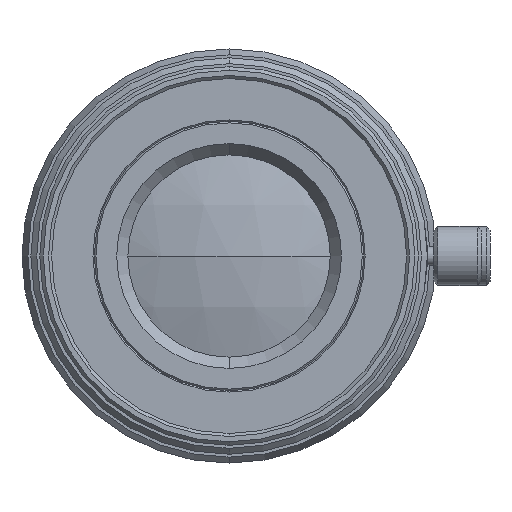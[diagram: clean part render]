
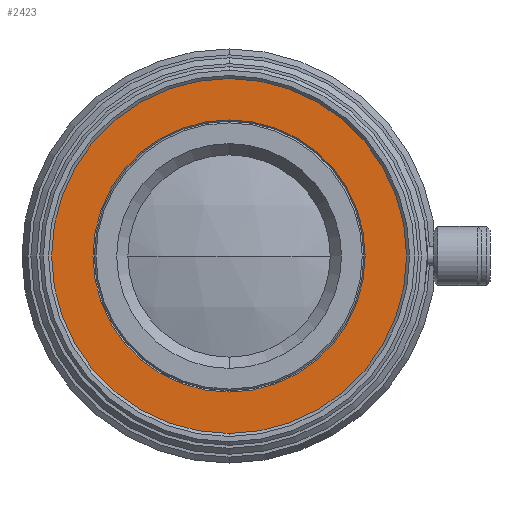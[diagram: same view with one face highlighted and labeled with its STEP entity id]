
A CAD part, left-side view. The second image highlights one B-rep face of the part: STEP entity #2423.
In plain terms, the highlighted planar face has unit normal (-1, 0, 0).
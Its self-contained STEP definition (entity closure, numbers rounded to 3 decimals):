
#54 = CARTESIAN_POINT ( 'NONE',  ( -57.526, 0., -11.5 ) ) ;
#136 = ORIENTED_EDGE ( 'NONE', *, *, #854, .F. ) ;
#185 = DIRECTION ( 'NONE',  ( -1., 0., 0. ) ) ;
#203 = DIRECTION ( 'NONE',  ( -1., 0., 0. ) ) ;
#326 = PLANE ( 'NONE',  #1830 ) ;
#352 = AXIS2_PLACEMENT_3D ( 'NONE', #1430, #804, #2001 ) ;
#362 = VERTEX_POINT ( 'NONE', #54 ) ;
#440 = VERTEX_POINT ( 'NONE', #1256 ) ;
#701 = EDGE_LOOP ( 'NONE', ( #1652, #1490 ) ) ;
#804 = DIRECTION ( 'NONE',  ( -1., 0., 0. ) ) ;
#817 = CARTESIAN_POINT ( 'NONE',  ( -57.526, 0., -15.25 ) ) ;
#854 = EDGE_CURVE ( 'NONE', #362, #2930, #2823, .T. ) ;
#973 = EDGE_LOOP ( 'NONE', ( #1206, #136 ) ) ;
#1098 = CARTESIAN_POINT ( 'NONE',  ( -57.526, 0., 0. ) ) ;
#1206 = ORIENTED_EDGE ( 'NONE', *, *, #1928, .F. ) ;
#1208 = DIRECTION ( 'NONE',  ( 0., 0., 1. ) ) ;
#1256 = CARTESIAN_POINT ( 'NONE',  ( -57.526, 0., 15.25 ) ) ;
#1287 = DIRECTION ( 'NONE',  ( 0., 0., 1. ) ) ;
#1430 = CARTESIAN_POINT ( 'NONE',  ( -57.526, 0., 0. ) ) ;
#1490 = ORIENTED_EDGE ( 'NONE', *, *, #2297, .T. ) ;
#1525 = DIRECTION ( 'NONE',  ( 1., 0., 0. ) ) ;
#1652 = ORIENTED_EDGE ( 'NONE', *, *, #2418, .T. ) ;
#1659 = AXIS2_PLACEMENT_3D ( 'NONE', #1883, #185, #1935 ) ;
#1791 = DIRECTION ( 'NONE',  ( -1., 0., 0. ) ) ;
#1830 = AXIS2_PLACEMENT_3D ( 'NONE', #3071, #1525, #2315 ) ;
#1883 = CARTESIAN_POINT ( 'NONE',  ( -57.526, 0., 0. ) ) ;
#1928 = EDGE_CURVE ( 'NONE', #2930, #362, #2094, .T. ) ;
#1935 = DIRECTION ( 'NONE',  ( 0., 0., 1. ) ) ;
#2001 = DIRECTION ( 'NONE',  ( 0., 0., 1. ) ) ;
#2094 = CIRCLE ( 'NONE', #352, 11.5 ) ;
#2297 = EDGE_CURVE ( 'NONE', #2495, #440, #2986, .T. ) ;
#2315 = DIRECTION ( 'NONE',  ( 0., 0., -1. ) ) ;
#2331 = FACE_OUTER_BOUND ( 'NONE', #701, .T. ) ;
#2371 = CIRCLE ( 'NONE', #2476, 15.25 ) ;
#2418 = EDGE_CURVE ( 'NONE', #440, #2495, #2371, .T. ) ;
#2423 = ADVANCED_FACE ( 'NONE', ( #2984, #2331 ), #326, .F. ) ;
#2476 = AXIS2_PLACEMENT_3D ( 'NONE', #1098, #1791, #1287 ) ;
#2484 = CARTESIAN_POINT ( 'NONE',  ( -57.526, 0., 0. ) ) ;
#2495 = VERTEX_POINT ( 'NONE', #817 ) ;
#2579 = AXIS2_PLACEMENT_3D ( 'NONE', #2484, #203, #1208 ) ;
#2638 = CARTESIAN_POINT ( 'NONE',  ( -57.526, 0., 11.5 ) ) ;
#2823 = CIRCLE ( 'NONE', #1659, 11.5 ) ;
#2930 = VERTEX_POINT ( 'NONE', #2638 ) ;
#2984 = FACE_BOUND ( 'NONE', #973, .T. ) ;
#2986 = CIRCLE ( 'NONE', #2579, 15.25 ) ;
#3071 = CARTESIAN_POINT ( 'NONE',  ( -57.526, 11.5, 0. ) ) ;
